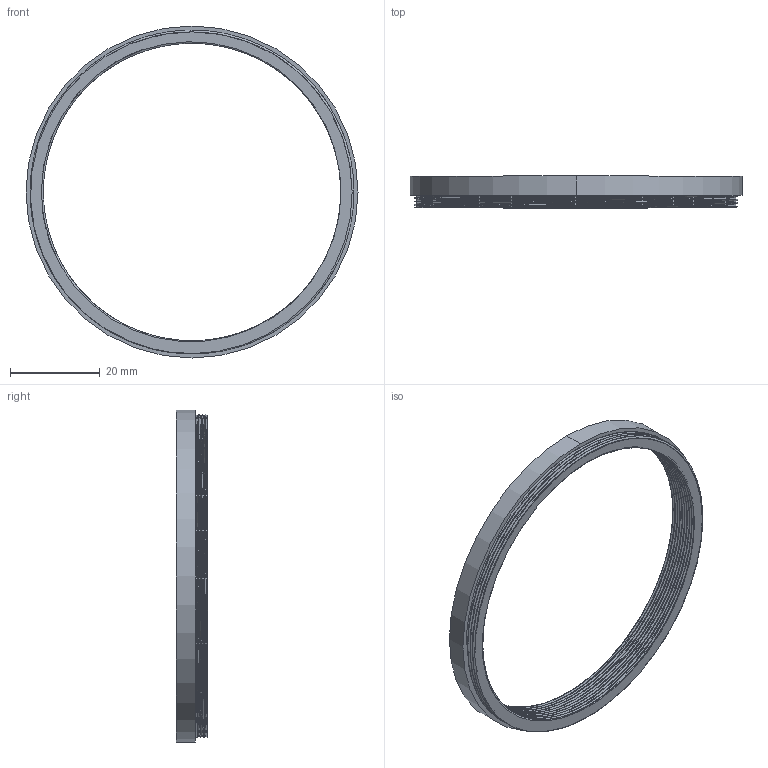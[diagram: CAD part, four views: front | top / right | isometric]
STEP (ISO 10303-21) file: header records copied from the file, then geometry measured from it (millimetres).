
FILE_DESCRIPTION (( 'STEP AP214' ), '1' );
FILE_NAME ('SD72-67.STEP', '2022-12-05T10:52:26', ( '' ), ( '' ), 'SwSTEP 2.0', 'SolidWorks 2021', '' );
FILE_SCHEMA (( 'AUTOMOTIVE_DESIGN' ));
Length unit declared in the file: millimetre
Products named in the file (1): SD72-67
Bounding box: 73.8 x 7 x 73.8 mm (x, y, z)
Volume: 4814.7 mm3; surface area: 5950.5 mm2
Topology: 1 solids, 1 shells, 41 faces, 114 edges, 76 vertices
Faces by surface type: cylinder 31, bspline 6, plane 4
Entity records: 4500 total; most frequent: CARTESIAN_POINT 3624, ORIENTED_EDGE 228, DIRECTION 124, EDGE_CURVE 114, VERTEX_POINT 76, AXIS2_PLACEMENT_3D 47, EDGE_LOOP 44, FACE_OUTER_BOUND 41
